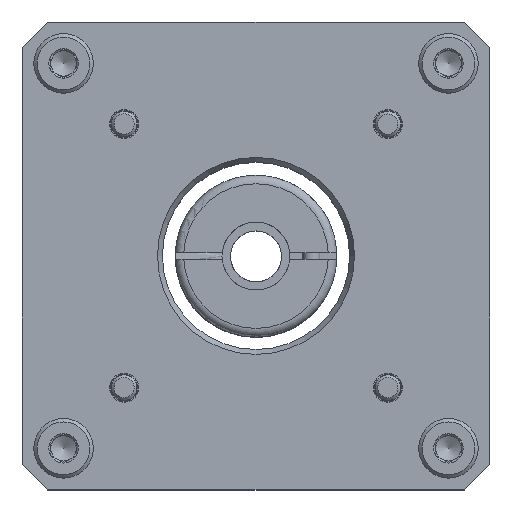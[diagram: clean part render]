
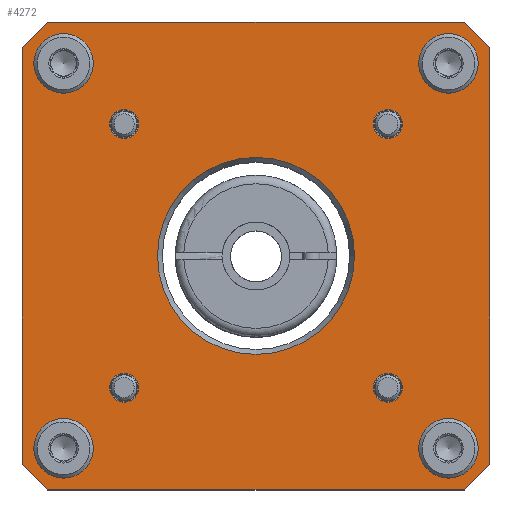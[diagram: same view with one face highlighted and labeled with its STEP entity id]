
A CAD part, top view. The second image highlights one B-rep face of the part: STEP entity #4272.
In plain terms, the highlighted planar face has unit normal (0, 0, 1) as drawn and (0, 0, -1) by its records, which use the part's own axes.
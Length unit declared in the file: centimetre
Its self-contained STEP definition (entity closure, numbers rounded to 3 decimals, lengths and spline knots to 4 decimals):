
#360=LINE($,#6633,#650);
#363=LINE($,#6638,#653);
#365=LINE($,#6642,#655);
#367=LINE($,#6646,#657);
#369=LINE($,#6662,#659);
#371=LINE($,#6666,#661);
#373=LINE($,#6670,#663);
#374=LINE($,#6672,#664);
#650=VECTOR($,#5318,0.4243);
#653=VECTOR($,#5323,4.9);
#655=VECTOR($,#5327,0.4243);
#657=VECTOR($,#5331,4.9);
#659=VECTOR($,#5351,0.4243);
#661=VECTOR($,#5355,4.9);
#663=VECTOR($,#5359,0.4243);
#664=VECTOR($,#5362,4.9);
#902=PLANE($,#4630);
#1151=FACE_BOUND($,#1610,.T.);
#1152=FACE_BOUND($,#1611,.T.);
#1153=FACE_BOUND($,#1612,.T.);
#1154=FACE_BOUND($,#1613,.T.);
#1155=FACE_BOUND($,#1614,.T.);
#1156=FACE_BOUND($,#1615,.T.);
#1157=FACE_BOUND($,#1616,.T.);
#1158=FACE_BOUND($,#1617,.T.);
#1159=FACE_BOUND($,#1618,.T.);
#1160=FACE_BOUND($,#1619,.T.);
#1610=EDGE_LOOP($,(#3368));
#1611=EDGE_LOOP($,(#3369));
#1612=EDGE_LOOP($,(#3370));
#1613=EDGE_LOOP($,(#3371));
#1614=EDGE_LOOP($,(#3372));
#1615=EDGE_LOOP($,(#3373));
#1616=EDGE_LOOP($,(#3374));
#1617=EDGE_LOOP($,(#3375));
#1618=EDGE_LOOP($,(#3376));
#1619=EDGE_LOOP($,(#3377,#3378,#3379,#3380,#3381,#3382,#3383,#3384));
#1915=CIRCLE($,#4568,0.17);
#1919=CIRCLE($,#4575,0.17);
#1923=CIRCLE($,#4582,0.17);
#1935=CIRCLE($,#4601,0.17);
#1936=CIRCLE($,#4603,1.1577);
#1944=CIRCLE($,#4619,0.225);
#1945=CIRCLE($,#4621,0.225);
#1946=CIRCLE($,#4623,0.225);
#1947=CIRCLE($,#4625,0.225);
#2151=VERTEX_POINT($,#6501);
#2158=VERTEX_POINT($,#6527);
#2165=VERTEX_POINT($,#6553);
#2173=VERTEX_POINT($,#6592);
#2174=VERTEX_POINT($,#6595);
#2189=VERTEX_POINT($,#6630);
#2190=VERTEX_POINT($,#6632);
#2191=VERTEX_POINT($,#6636);
#2192=VERTEX_POINT($,#6640);
#2193=VERTEX_POINT($,#6644);
#2194=VERTEX_POINT($,#6648);
#2195=VERTEX_POINT($,#6651);
#2196=VERTEX_POINT($,#6654);
#2197=VERTEX_POINT($,#6657);
#2198=VERTEX_POINT($,#6660);
#2199=VERTEX_POINT($,#6664);
#2200=VERTEX_POINT($,#6668);
#2580=EDGE_CURVE($,#2151,#2151,#1915,.T.);
#2587=EDGE_CURVE($,#2158,#2158,#1919,.T.);
#2594=EDGE_CURVE($,#2165,#2165,#1923,.T.);
#2609=EDGE_CURVE($,#2173,#2173,#1935,.T.);
#2610=EDGE_CURVE($,#2174,#2174,#1936,.T.);
#2627=EDGE_CURVE($,#2189,#2190,#360,.T.);
#2630=EDGE_CURVE($,#2191,#2189,#363,.T.);
#2632=EDGE_CURVE($,#2192,#2191,#365,.T.);
#2634=EDGE_CURVE($,#2193,#2192,#367,.T.);
#2635=EDGE_CURVE($,#2194,#2194,#1944,.T.);
#2636=EDGE_CURVE($,#2195,#2195,#1945,.T.);
#2637=EDGE_CURVE($,#2196,#2196,#1946,.T.);
#2638=EDGE_CURVE($,#2197,#2197,#1947,.T.);
#2640=EDGE_CURVE($,#2198,#2193,#369,.T.);
#2642=EDGE_CURVE($,#2199,#2198,#371,.T.);
#2644=EDGE_CURVE($,#2200,#2199,#373,.T.);
#2645=EDGE_CURVE($,#2190,#2200,#374,.T.);
#3368=ORIENTED_EDGE($,*,*,#2580,.T.);
#3369=ORIENTED_EDGE($,*,*,#2587,.T.);
#3370=ORIENTED_EDGE($,*,*,#2594,.T.);
#3371=ORIENTED_EDGE($,*,*,#2609,.T.);
#3372=ORIENTED_EDGE($,*,*,#2610,.T.);
#3373=ORIENTED_EDGE($,*,*,#2635,.T.);
#3374=ORIENTED_EDGE($,*,*,#2636,.T.);
#3375=ORIENTED_EDGE($,*,*,#2637,.T.);
#3376=ORIENTED_EDGE($,*,*,#2638,.T.);
#3377=ORIENTED_EDGE($,*,*,#2634,.F.);
#3378=ORIENTED_EDGE($,*,*,#2640,.F.);
#3379=ORIENTED_EDGE($,*,*,#2642,.F.);
#3380=ORIENTED_EDGE($,*,*,#2644,.F.);
#3381=ORIENTED_EDGE($,*,*,#2645,.F.);
#3382=ORIENTED_EDGE($,*,*,#2627,.F.);
#3383=ORIENTED_EDGE($,*,*,#2630,.F.);
#3384=ORIENTED_EDGE($,*,*,#2632,.F.);
#4272=ADVANCED_FACE($,(#1151,#1152,#1153,#1154,#1155,#1156,#1157,#1158,
#1159,#1160),#902,.F.);
#4568=AXIS2_PLACEMENT_3D($,#6502,#5209,#5210);
#4575=AXIS2_PLACEMENT_3D($,#6528,#5225,#5226);
#4582=AXIS2_PLACEMENT_3D($,#6554,#5241,#5242);
#4601=AXIS2_PLACEMENT_3D($,#6593,#5281,#5282);
#4603=AXIS2_PLACEMENT_3D($,#6596,#5285,#5286);
#4619=AXIS2_PLACEMENT_3D($,#6649,#5334,#5335);
#4621=AXIS2_PLACEMENT_3D($,#6652,#5338,#5339);
#4623=AXIS2_PLACEMENT_3D($,#6655,#5342,#5343);
#4625=AXIS2_PLACEMENT_3D($,#6658,#5346,#5347);
#4630=AXIS2_PLACEMENT_3D($,#6673,#5363,#5364);
#5209=DIRECTION('center_axis',(0.,0.,1.));
#5210=DIRECTION('ref_axis',(0.,1.,0.));
#5225=DIRECTION('center_axis',(0.,0.,1.));
#5226=DIRECTION('ref_axis',(0.,1.,0.));
#5241=DIRECTION('center_axis',(0.,0.,1.));
#5242=DIRECTION('ref_axis',(0.,1.,0.));
#5281=DIRECTION('center_axis',(0.,0.,1.));
#5282=DIRECTION('ref_axis',(0.,1.,0.));
#5285=DIRECTION('center_axis',(0.,0.,1.));
#5286=DIRECTION('ref_axis',(-1.,0.,0.));
#5318=DIRECTION($,(0.707,0.707,0.));
#5323=DIRECTION($,(1.,0.,0.));
#5327=DIRECTION($,(0.707,-0.707,0.));
#5331=DIRECTION($,(0.,-1.,0.));
#5334=DIRECTION('center_axis',(0.,0.,1.));
#5335=DIRECTION('ref_axis',(-1.,0.,0.));
#5338=DIRECTION('center_axis',(0.,0.,1.));
#5339=DIRECTION('ref_axis',(-1.,0.,0.));
#5342=DIRECTION('center_axis',(0.,0.,1.));
#5343=DIRECTION('ref_axis',(-1.,0.,0.));
#5346=DIRECTION('center_axis',(0.,0.,1.));
#5347=DIRECTION('ref_axis',(-1.,0.,0.));
#5351=DIRECTION($,(-0.707,-0.707,0.));
#5355=DIRECTION($,(-1.,0.,0.));
#5359=DIRECTION($,(-0.707,0.707,0.));
#5362=DIRECTION($,(0.,1.,0.));
#5363=DIRECTION('center_axis',(0.,0.,1.));
#5364=DIRECTION('ref_axis',(1.,0.,0.));
#6501=CARTESIAN_POINT('',(-1.55,-1.38,0.));
#6502=CARTESIAN_POINT('Origin',(-1.55,-1.55,0.));
#6527=CARTESIAN_POINT('',(1.55,-1.38,0.));
#6528=CARTESIAN_POINT('Origin',(1.55,-1.55,0.));
#6553=CARTESIAN_POINT('',(-1.55,1.72,0.));
#6554=CARTESIAN_POINT('Origin',(-1.55,1.55,0.));
#6592=CARTESIAN_POINT('',(1.55,1.72,0.));
#6593=CARTESIAN_POINT('Origin',(1.55,1.55,0.));
#6595=CARTESIAN_POINT('',(-1.1577,0.,0.));
#6596=CARTESIAN_POINT('Origin',(0.,0.,0.));
#6630=CARTESIAN_POINT('',(2.45,-2.75,0.));
#6632=CARTESIAN_POINT('',(2.75,-2.45,0.));
#6633=CARTESIAN_POINT($,(2.45,-2.75,0.));
#6636=CARTESIAN_POINT('',(-2.45,-2.75,0.));
#6638=CARTESIAN_POINT($,(-2.45,-2.75,0.));
#6640=CARTESIAN_POINT('',(-2.75,-2.45,0.));
#6642=CARTESIAN_POINT($,(-2.75,-2.45,0.));
#6644=CARTESIAN_POINT('',(-2.75,2.45,0.));
#6646=CARTESIAN_POINT($,(-2.75,2.45,0.));
#6648=CARTESIAN_POINT('',(-2.0377,-2.2627,0.));
#6649=CARTESIAN_POINT('Origin',(-2.2627,-2.2627,0.));
#6651=CARTESIAN_POINT('',(-2.0377,2.2627,0.));
#6652=CARTESIAN_POINT('Origin',(-2.2627,2.2627,0.));
#6654=CARTESIAN_POINT('',(2.4877,-2.2627,0.));
#6655=CARTESIAN_POINT('Origin',(2.2627,-2.2627,0.));
#6657=CARTESIAN_POINT('',(2.4877,2.2627,0.));
#6658=CARTESIAN_POINT('Origin',(2.2627,2.2627,0.));
#6660=CARTESIAN_POINT('',(-2.45,2.75,0.));
#6662=CARTESIAN_POINT($,(-2.45,2.75,0.));
#6664=CARTESIAN_POINT('',(2.45,2.75,0.));
#6666=CARTESIAN_POINT($,(2.45,2.75,0.));
#6668=CARTESIAN_POINT('',(2.75,2.45,0.));
#6670=CARTESIAN_POINT($,(2.75,2.45,0.));
#6672=CARTESIAN_POINT($,(2.75,-2.45,0.));
#6673=CARTESIAN_POINT('Origin',(0.,0.,0.));
